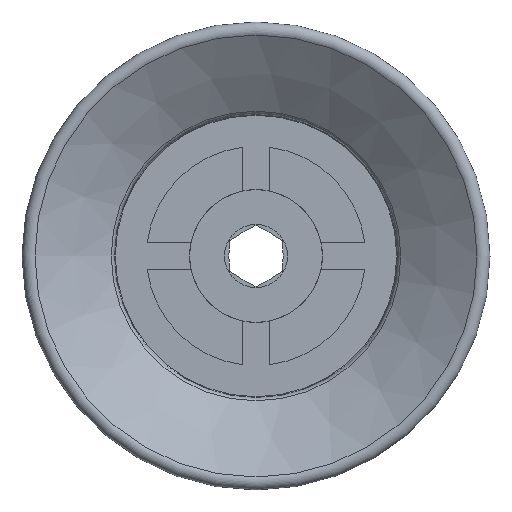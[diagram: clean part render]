
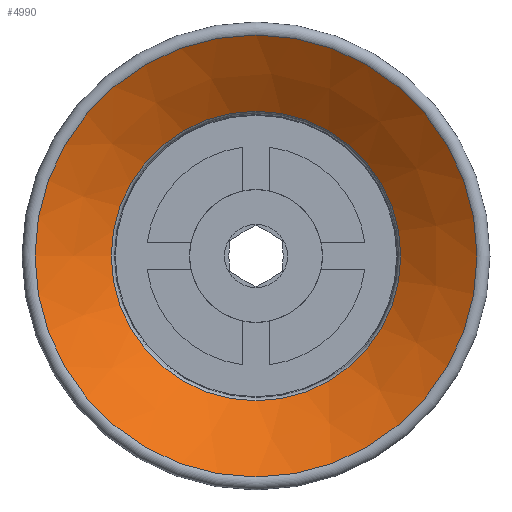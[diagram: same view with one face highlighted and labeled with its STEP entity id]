
A CAD part, front view. The second image highlights one B-rep face of the part: STEP entity #4990.
In plain terms, the highlighted conical face has half-angle 55.362 degrees and reference radius 21.785 mm.
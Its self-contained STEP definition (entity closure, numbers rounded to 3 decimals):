
#58 = CARTESIAN_POINT ( 'NONE',  ( -33.261, 0.222, 0. ) ) ;
#419 = DIRECTION ( 'NONE',  ( 0., 1., 0. ) ) ;
#618 = CARTESIAN_POINT ( 'NONE',  ( 0., 8.149, 0. ) ) ;
#871 = EDGE_LOOP ( 'NONE', ( #5456 ) ) ;
#1106 = DIRECTION ( 'NONE',  ( 0., -1., 0. ) ) ;
#1366 = VERTEX_POINT ( 'NONE', #5300 ) ;
#1775 = VERTEX_POINT ( 'NONE', #58 ) ;
#1968 = AXIS2_PLACEMENT_3D ( 'NONE', #618, #1106, #5583 ) ;
#2041 = FACE_OUTER_BOUND ( 'NONE', #871, .T. ) ;
#2684 = EDGE_LOOP ( 'NONE', ( #3362 ) ) ;
#3362 = ORIENTED_EDGE ( 'NONE', *, *, #4443, .T. ) ;
#3630 = CONICAL_SURFACE ( 'NONE', #1968, 21.785, 0.966 ) ;
#3869 = CARTESIAN_POINT ( 'NONE',  ( 0., 8.149, 0. ) ) ;
#4044 = CARTESIAN_POINT ( 'NONE',  ( 0., 0.222, 0. ) ) ;
#4084 = EDGE_CURVE ( 'NONE', #1775, #1775, #5288, .T. ) ;
#4162 = AXIS2_PLACEMENT_3D ( 'NONE', #3869, #419, #5678 ) ;
#4436 = CIRCLE ( 'NONE', #4162, 21.785 ) ;
#4443 = EDGE_CURVE ( 'NONE', #1366, #1366, #4436, .T. ) ;
#4961 = DIRECTION ( 'NONE',  ( 0., 1., 0. ) ) ;
#4990 = ADVANCED_FACE ( 'NONE', ( #2041, #5096 ), #3630, .F. ) ;
#5005 = AXIS2_PLACEMENT_3D ( 'NONE', #4044, #4961, #5018 ) ;
#5018 = DIRECTION ( 'NONE',  ( -1., 0., 0. ) ) ;
#5096 = FACE_BOUND ( 'NONE', #2684, .T. ) ;
#5288 = CIRCLE ( 'NONE', #5005, 33.261 ) ;
#5300 = CARTESIAN_POINT ( 'NONE',  ( -21.785, 8.149, 0. ) ) ;
#5456 = ORIENTED_EDGE ( 'NONE', *, *, #4084, .F. ) ;
#5583 = DIRECTION ( 'NONE',  ( 1., 0., 0. ) ) ;
#5678 = DIRECTION ( 'NONE',  ( -1., 0., 0. ) ) ;
